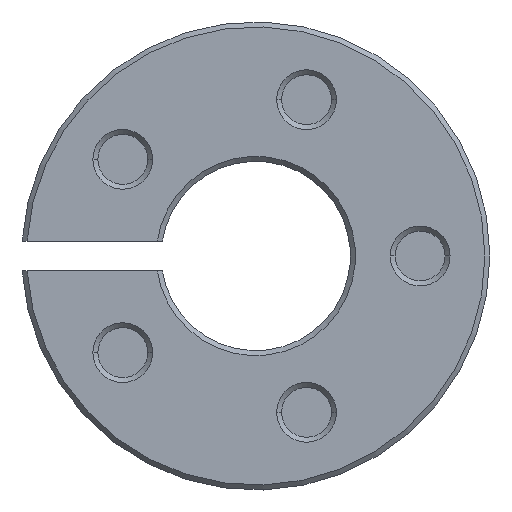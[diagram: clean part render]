
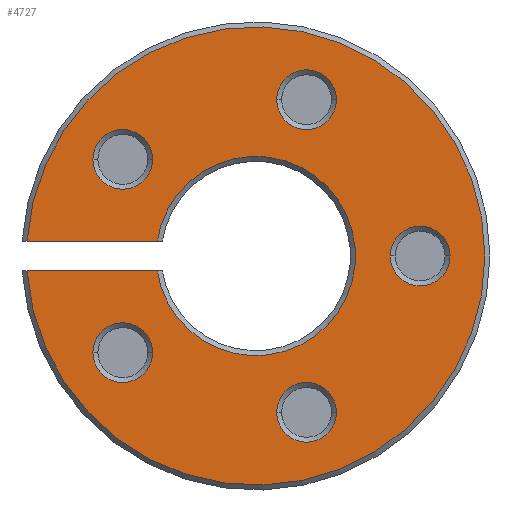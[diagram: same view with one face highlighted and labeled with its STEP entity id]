
A CAD part, left-side view. The second image highlights one B-rep face of the part: STEP entity #4727.
In plain terms, the highlighted planar face has unit normal (-1, 0, 0).
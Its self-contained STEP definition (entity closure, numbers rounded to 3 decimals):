
#1804=CARTESIAN_POINT('',(-28.,0.,0.));
#1805=DIRECTION('',(-1.,0.,0.));
#1806=DIRECTION('',(0.,0.998,-0.065));
#1807=AXIS2_PLACEMENT_3D('',#1804,#1805,#1806);
#1840=CARTESIAN_POINT('',(-28.,13.349,
-9.698));
#1841=DIRECTION('',(1.,0.,0.));
#1842=DIRECTION('',(0.,-1.,0.));
#1843=AXIS2_PLACEMENT_3D('',#1840,#1841,#1842);
#1848=CARTESIAN_POINT('',(-28.,13.349,
-9.698));
#1849=DIRECTION('',(1.,0.,0.));
#1850=DIRECTION('',(0.,1.,0.));
#1851=AXIS2_PLACEMENT_3D('',#1848,#1849,#1850);
#1856=CARTESIAN_POINT('',(-28.,-5.099,
-15.692));
#1857=DIRECTION('',(1.,0.,0.));
#1858=DIRECTION('',(0.,-1.,0.));
#1859=AXIS2_PLACEMENT_3D('',#1856,#1857,#1858);
#1864=CARTESIAN_POINT('',(-28.,-5.099,
-15.692));
#1865=DIRECTION('',(1.,0.,0.));
#1866=DIRECTION('',(0.,1.,0.));
#1867=AXIS2_PLACEMENT_3D('',#1864,#1865,#1866);
#1872=CARTESIAN_POINT('',(-28.,-16.5,0.));
#1873=DIRECTION('',(1.,0.,0.));
#1874=DIRECTION('',(0.,-1.,0.));
#1875=AXIS2_PLACEMENT_3D('',#1872,#1873,#1874);
#1880=CARTESIAN_POINT('',(-28.,-16.5,0.));
#1881=DIRECTION('',(1.,0.,0.));
#1882=DIRECTION('',(0.,1.,0.));
#1883=AXIS2_PLACEMENT_3D('',#1880,#1881,#1882);
#1888=CARTESIAN_POINT('',(-28.,-5.099,
15.692));
#1889=DIRECTION('',(1.,0.,0.));
#1890=DIRECTION('',(0.,-1.,0.));
#1891=AXIS2_PLACEMENT_3D('',#1888,#1889,#1890);
#1896=CARTESIAN_POINT('',(-28.,-5.099,
15.692));
#1897=DIRECTION('',(1.,0.,0.));
#1898=DIRECTION('',(0.,1.,0.));
#1899=AXIS2_PLACEMENT_3D('',#1896,#1897,#1898);
#1904=CARTESIAN_POINT('',(-28.,13.349,9.698));
#1905=DIRECTION('',(1.,0.,0.));
#1906=DIRECTION('',(0.,-1.,0.));
#1907=AXIS2_PLACEMENT_3D('',#1904,#1905,#1906);
#1912=CARTESIAN_POINT('',(-28.,13.349,9.698));
#1913=DIRECTION('',(1.,0.,0.));
#1914=DIRECTION('',(0.,1.,0.));
#1915=AXIS2_PLACEMENT_3D('',#1912,#1913,#1914);
#1920=DIRECTION('',(0.,-1.,0.));
#1921=VECTOR('',#1920,13.064);
#1922=CARTESIAN_POINT('',(-28.,22.951,-1.5));
#1923=LINE('',#1922,#1921);
#1927=DIRECTION('',(0.,-1.,0.));
#1928=VECTOR('',#1927,13.064);
#1929=CARTESIAN_POINT('',(-28.,22.951,1.5));
#1930=LINE('',#1929,#1928);
#2252=CARTESIAN_POINT('',(-28.,0.,0.));
#2253=DIRECTION('',(1.,0.,0.));
#2254=DIRECTION('',(0.,0.989,0.15));
#2255=AXIS2_PLACEMENT_3D('',#2252,#2253,#2254);
#2566=CARTESIAN_POINT('',(-28.,10.349,
-9.698));
#2567=CARTESIAN_POINT('',(-28.,16.349,
-9.698));
#2568=VERTEX_POINT('',#2566);
#2569=VERTEX_POINT('',#2567);
#2618=CARTESIAN_POINT('',(-28.,-8.099,
-15.692));
#2619=CARTESIAN_POINT('',(-28.,-2.099,
-15.692));
#2620=VERTEX_POINT('',#2618);
#2621=VERTEX_POINT('',#2619);
#2626=CARTESIAN_POINT('',(-28.,-19.5,0.));
#2627=CARTESIAN_POINT('',(-28.,-13.5,0.));
#2628=VERTEX_POINT('',#2626);
#2629=VERTEX_POINT('',#2627);
#2634=CARTESIAN_POINT('',(-28.,-8.099,
15.692));
#2635=CARTESIAN_POINT('',(-28.,-2.099,
15.692));
#2636=VERTEX_POINT('',#2634);
#2637=VERTEX_POINT('',#2635);
#2642=CARTESIAN_POINT('',(-28.,10.349,9.698));
#2643=CARTESIAN_POINT('',(-28.,16.349,9.698));
#2644=VERTEX_POINT('',#2642);
#2645=VERTEX_POINT('',#2643);
#2890=CARTESIAN_POINT('',(-28.,22.951,-1.5));
#2891=CARTESIAN_POINT('',(-28.,9.887,-1.5));
#2892=VERTEX_POINT('',#2890);
#2893=VERTEX_POINT('',#2891);
#2894=CARTESIAN_POINT('',(-28.,22.951,1.5));
#2895=CARTESIAN_POINT('',(-28.,9.887,1.5));
#2896=VERTEX_POINT('',#2894);
#2897=VERTEX_POINT('',#2895);
#4685=CARTESIAN_POINT('',(-28.,0.,0.));
#4686=DIRECTION('',(1.,0.,0.));
#4687=DIRECTION('',(0.,0.,-1.));
#4688=AXIS2_PLACEMENT_3D('',#4685,#4686,#4687);
#4689=PLANE('',#4688);
#4690=ORIENTED_EDGE('',*,*,#4504,.T.);
#4692=ORIENTED_EDGE('',*,*,#4691,.F.);
#4693=ORIENTED_EDGE('',*,*,#4573,.F.);
#4694=ORIENTED_EDGE('',*,*,#4665,.F.);
#4695=EDGE_LOOP('',(#4690,#4692,#4693,#4694));
#4696=FACE_OUTER_BOUND('',#4695,.F.);
#4698=ORIENTED_EDGE('',*,*,#4697,.F.);
#4700=ORIENTED_EDGE('',*,*,#4699,.F.);
#4701=EDGE_LOOP('',(#4698,#4700));
#4702=FACE_BOUND('',#4701,.F.);
#4704=ORIENTED_EDGE('',*,*,#4703,.F.);
#4706=ORIENTED_EDGE('',*,*,#4705,.F.);
#4707=EDGE_LOOP('',(#4704,#4706));
#4708=FACE_BOUND('',#4707,.F.);
#4710=ORIENTED_EDGE('',*,*,#4709,.F.);
#4712=ORIENTED_EDGE('',*,*,#4711,.F.);
#4713=EDGE_LOOP('',(#4710,#4712));
#4714=FACE_BOUND('',#4713,.F.);
#4716=ORIENTED_EDGE('',*,*,#4715,.F.);
#4718=ORIENTED_EDGE('',*,*,#4717,.F.);
#4719=EDGE_LOOP('',(#4716,#4718));
#4720=FACE_BOUND('',#4719,.F.);
#4722=ORIENTED_EDGE('',*,*,#4721,.F.);
#4724=ORIENTED_EDGE('',*,*,#4723,.F.);
#4725=EDGE_LOOP('',(#4722,#4724));
#4726=FACE_BOUND('',#4725,.F.);
#4727=ADVANCED_FACE('',(#4696,#4702,#4708,#4714,#4720,#4726),#4689,.F.);
#1808=CIRCLE('',#1807,23.);
#1844=CIRCLE('',#1843,3.);
#1852=CIRCLE('',#1851,3.);
#1860=CIRCLE('',#1859,3.);
#1868=CIRCLE('',#1867,3.);
#1876=CIRCLE('',#1875,3.);
#1884=CIRCLE('',#1883,3.);
#1892=CIRCLE('',#1891,3.);
#1900=CIRCLE('',#1899,3.);
#1908=CIRCLE('',#1907,3.);
#1916=CIRCLE('',#1915,3.);
#2256=CIRCLE('',#2255,10.);
#4504=EDGE_CURVE('',#2892,#2893,#1923,.T.);
#4573=EDGE_CURVE('',#2896,#2897,#1930,.T.);
#4665=EDGE_CURVE('',#2892,#2896,#1808,.T.);
#4691=EDGE_CURVE('',#2897,#2893,#2256,.T.);
#4697=EDGE_CURVE('',#2568,#2569,#1844,.T.);
#4699=EDGE_CURVE('',#2569,#2568,#1852,.T.);
#4703=EDGE_CURVE('',#2620,#2621,#1860,.T.);
#4705=EDGE_CURVE('',#2621,#2620,#1868,.T.);
#4709=EDGE_CURVE('',#2628,#2629,#1876,.T.);
#4711=EDGE_CURVE('',#2629,#2628,#1884,.T.);
#4715=EDGE_CURVE('',#2636,#2637,#1892,.T.);
#4717=EDGE_CURVE('',#2637,#2636,#1900,.T.);
#4721=EDGE_CURVE('',#2644,#2645,#1908,.T.);
#4723=EDGE_CURVE('',#2645,#2644,#1916,.T.);
